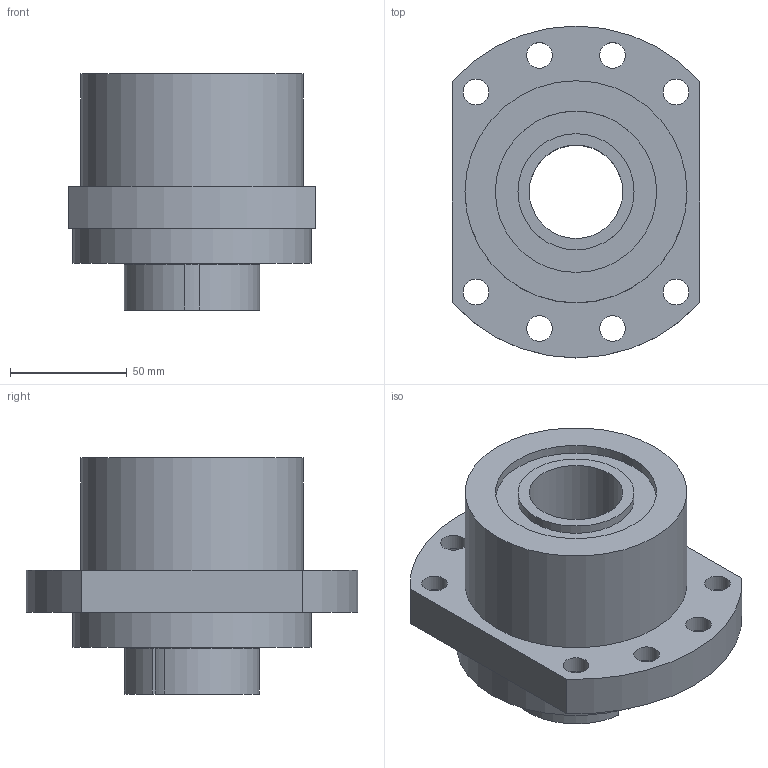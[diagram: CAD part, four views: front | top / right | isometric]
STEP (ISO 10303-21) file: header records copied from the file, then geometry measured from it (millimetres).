
FILE_DESCRIPTION(/* description */ (''),/* implementation_level */ '2;1');
FILE_NAME(/* name */ 'C:\Users\tenki620635\Desktop\官網\圖面\軸承座\3D\setp檔\WBK40 DFD-Atype.stp',/* time_stamp */ '2020-12-21T16:12:07+08:00',/* author */ ('tenki620635'),/* organization */ (''),/* preprocessor_version */ 'ST-DEVELOPER v15.2',/* originating_system */ 'Autodesk Inventor 2014',/* authorisation */ '');
FILE_SCHEMA (('AUTOMOTIVE_DESIGN { 1 0 10303 214 3 1 1 }'));
Length unit declared in the file: millimetre
Products named in the file (1): WBK40 DFD-Atype
Bounding box: 106 x 142 x 101 mm (x, y, z)
Volume: 589580.4 mm3; surface area: 77424.4 mm2
Topology: 1 solids, 1 shells, 58 faces, 120 edges, 80 vertices
Faces by surface type: cylinder 32, plane 26
Full cylindrical faces by diameter (mm): 11 x8, 17.5 x8, 40 x1, 49.7 x2, 52 x1, 69 x2, 95 x1, 102 x1
Entity records: 1505 total; most frequent: DIRECTION 278, CARTESIAN_POINT 235, ORIENTED_EDGE 192, AXIS2_PLACEMENT_3D 123, EDGE_LOOP 116, EDGE_CURVE 96, VERTEX_POINT 80, FACE_BOUND 65
